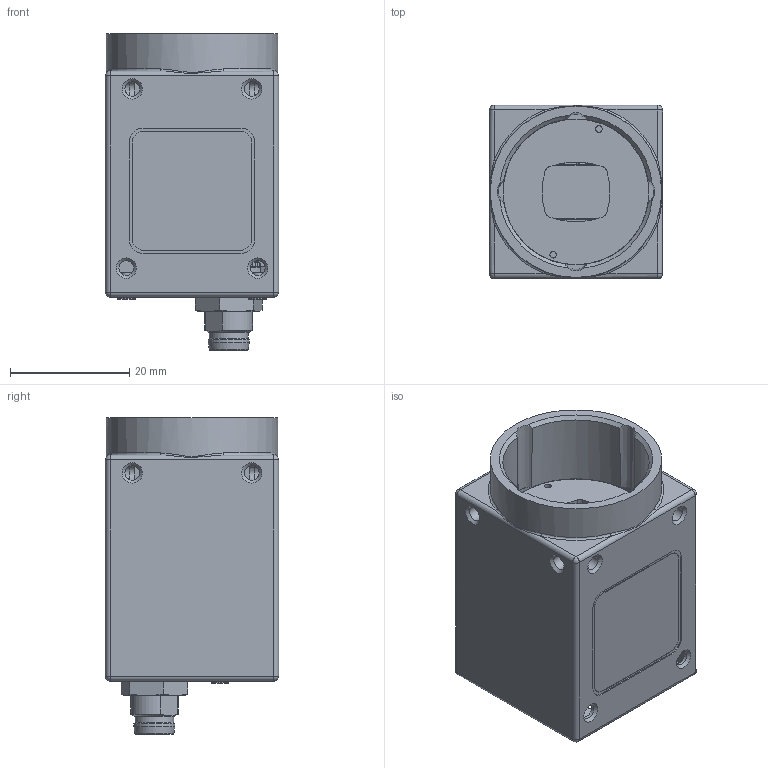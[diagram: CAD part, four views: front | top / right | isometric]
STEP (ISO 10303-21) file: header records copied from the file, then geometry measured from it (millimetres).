
FILE_DESCRIPTION( ( 'Unknown' ), '1' );
FILE_NAME( 'C:/Users/rih/Desktop/11184370_VCXU-22M.R.stp', 'Unknown', ( 'Unknown' ), ( 'Unknown' ), 'PSStep 19.0.9', 'Unknown', ' ' );
FILE_SCHEMA( ( 'AUTOMOTIVE_DESIGN { 1 0 10303 214 1 1 1 1 }' ) );
Length unit declared in the file: millimetre
Products named in the file (5): 11104603
Bounding box: 29 x 29 x 53 mm (x, y, z)
Volume: 10748 mm3; surface area: 15537.6 mm2
Topology: 5 solids, 9 shells, 1518 faces, 3941 edges, 2580 vertices
Faces by surface type: plane 903, cylinder 461, cone 71, torus 27, sphere 24, bspline 24, extrusion 8
Full cylindrical faces by diameter (mm): 0.217 x1, 0.5 x110, 0.6 x16, 0.7 x1, 0.9 x1, 1.1 x2, 1.4 x4, 1.567 x2, 1.6 x2, 1.9 x4, 2.459 x10, 3 x4, 6.5 x1, 6.9 x1, 8.4 x1, 9 x1, 9.4 x1, 24.4 x1, 26 x1, 28.7 x1
Entity records: 62573 total; most frequent: CARTESIAN_POINT 11979, DIRECTION 7200, ORIENTED_EDGE 7014, EDGE_CURVE 3507, AXIS2_PLACEMENT_3D 2552, VERTEX_POINT 2402, PRESENTATION_STYLE_ASSIGNMENT 2187, COLOUR_RGB 2187
